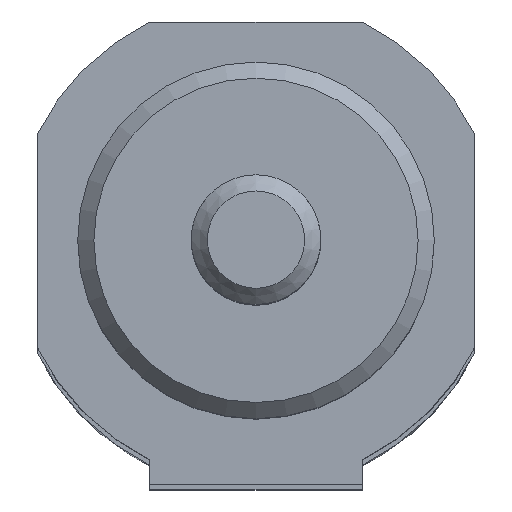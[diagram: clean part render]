
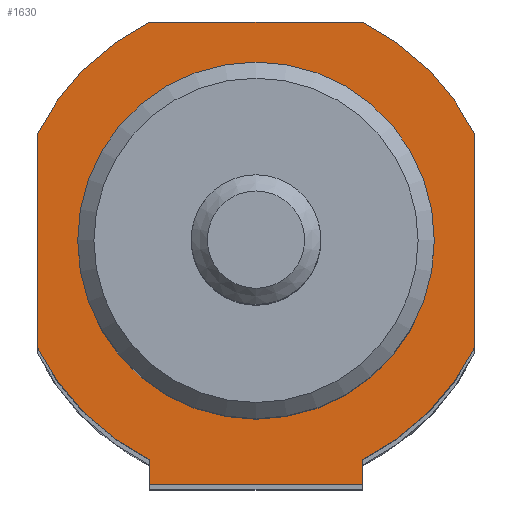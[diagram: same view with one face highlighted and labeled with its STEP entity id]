
A CAD part, top view. The second image highlights one B-rep face of the part: STEP entity #1630.
In plain terms, the highlighted planar face has unit normal (0, 0, 1).
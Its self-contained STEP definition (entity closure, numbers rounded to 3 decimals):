
#73=CARTESIAN_POINT('',(6.538,-15.,231.0));
#74=VERTEX_POINT('',#73);
#75=CARTESIAN_POINT('',(-6.538,-15.,231.0));
#76=VERTEX_POINT('',#75);
#77=CARTESIAN_POINT('',(6.538,-15.,231.0));
#78=DIRECTION('',(-1.0,0.0,0.0));
#79=VECTOR('',#78,13.077);
#80=LINE('',#77,#79);
#81=EDGE_CURVE('',#74,#76,#80,.T.);
#126=CARTESIAN_POINT('',(-6.538,-13.5,231.0));
#127=VERTEX_POINT('',#126);
#141=CARTESIAN_POINT('',(-6.538,-13.5,231.0));
#142=DIRECTION('',(0.0,-1.0,0.0));
#143=VECTOR('',#142,1.5);
#144=LINE('',#141,#143);
#145=EDGE_CURVE('',#127,#76,#144,.T.);
#157=CARTESIAN_POINT('',(6.538,-13.5,231.0));
#158=VERTEX_POINT('',#157);
#165=CARTESIAN_POINT('',(6.538,-13.5,231.0));
#166=DIRECTION('',(0.0,-1.0,0.0));
#167=VECTOR('',#166,1.5);
#168=LINE('',#165,#167);
#169=EDGE_CURVE('',#158,#74,#168,.T.);
#1358=CARTESIAN_POINT('',(11.0,0.,231.0));
#1359=VERTEX_POINT('',#1358);
#1360=CARTESIAN_POINT('',(0.,0.,231.0));
#1361=DIRECTION('',(0.0,0.0,-1.0));
#1362=DIRECTION('',(-1.0,0.0,0.0));
#1363=AXIS2_PLACEMENT_3D('',#1360,#1361,#1362);
#1364=CIRCLE('',#1363,11.0);
#1365=EDGE_CURVE('',#1359,#1359,#1364,.T.);
#1450=CARTESIAN_POINT('',(-6.538,13.5,231.0));
#1451=VERTEX_POINT('',#1450);
#1452=CARTESIAN_POINT('',(6.538,13.5,231.0));
#1453=VERTEX_POINT('',#1452);
#1454=CARTESIAN_POINT('',(-6.538,13.5,231.0));
#1455=DIRECTION('',(1.0,0.0,0.0));
#1456=VECTOR('',#1455,13.077);
#1457=LINE('',#1454,#1456);
#1458=EDGE_CURVE('',#1451,#1453,#1457,.T.);
#1481=CARTESIAN_POINT('',(13.5,6.538,231.0));
#1482=VERTEX_POINT('',#1481);
#1483=CARTESIAN_POINT('',(0.,0.,231.));
#1484=DIRECTION('',(0.,0.,-1.0));
#1485=DIRECTION('',(0.9,0.436,0.));
#1486=AXIS2_PLACEMENT_3D('',#1483,#1484,#1485);
#1487=CIRCLE('',#1486,15.);
#1488=EDGE_CURVE('',#1453,#1482,#1487,.T.);
#1506=CARTESIAN_POINT('',(13.5,-6.538,231.0));
#1507=VERTEX_POINT('',#1506);
#1508=CARTESIAN_POINT('',(13.5,6.538,231.0));
#1509=DIRECTION('',(0.0,-1.0,0.0));
#1510=VECTOR('',#1509,13.077);
#1511=LINE('',#1508,#1510);
#1512=EDGE_CURVE('',#1482,#1507,#1511,.T.);
#1530=CARTESIAN_POINT('',(0.,0.,231.));
#1531=DIRECTION('',(0.,0.,-1.0));
#1532=DIRECTION('',(0.436,-0.9,0.));
#1533=AXIS2_PLACEMENT_3D('',#1530,#1531,#1532);
#1534=CIRCLE('',#1533,15.);
#1535=EDGE_CURVE('',#1507,#158,#1534,.T.);
#1548=CARTESIAN_POINT('',(-13.5,-6.538,231.0));
#1549=VERTEX_POINT('',#1548);
#1550=CARTESIAN_POINT('',(0.,0.,231.));
#1551=DIRECTION('',(0.,0.,-1.0));
#1552=DIRECTION('',(-0.9,-0.436,0.));
#1553=AXIS2_PLACEMENT_3D('',#1550,#1551,#1552);
#1554=CIRCLE('',#1553,15.);
#1555=EDGE_CURVE('',#127,#1549,#1554,.T.);
#1573=CARTESIAN_POINT('',(-13.5,6.538,231.0));
#1574=VERTEX_POINT('',#1573);
#1575=CARTESIAN_POINT('',(-13.5,-6.538,231.0));
#1576=DIRECTION('',(0.0,1.0,0.0));
#1577=VECTOR('',#1576,13.077);
#1578=LINE('',#1575,#1577);
#1579=EDGE_CURVE('',#1549,#1574,#1578,.T.);
#1597=CARTESIAN_POINT('',(0.,0.,231.));
#1598=DIRECTION('',(0.,0.,-1.0));
#1599=DIRECTION('',(-0.436,0.9,0.));
#1600=AXIS2_PLACEMENT_3D('',#1597,#1598,#1599);
#1601=CIRCLE('',#1600,15.);
#1602=EDGE_CURVE('',#1574,#1451,#1601,.T.);
#1610=CARTESIAN_POINT('',(0.,0.0,231.0));
#1611=DIRECTION('',(0.0,0.0,1.0));
#1612=DIRECTION('',(1.0,0.0,0.0));
#1613=AXIS2_PLACEMENT_3D('',#1610,#1611,#1612);
#1614=PLANE('',#1613);
#1615=ORIENTED_EDGE('',*,*,#1458,.F.);
#1616=ORIENTED_EDGE('',*,*,#1602,.F.);
#1617=ORIENTED_EDGE('',*,*,#1579,.F.);
#1618=ORIENTED_EDGE('',*,*,#1555,.F.);
#1619=ORIENTED_EDGE('',*,*,#145,.T.);
#1620=ORIENTED_EDGE('',*,*,#81,.F.);
#1621=ORIENTED_EDGE('',*,*,#169,.F.);
#1622=ORIENTED_EDGE('',*,*,#1535,.F.);
#1623=ORIENTED_EDGE('',*,*,#1512,.F.);
#1624=ORIENTED_EDGE('',*,*,#1488,.F.);
#1625=EDGE_LOOP('',(#1615,#1616,#1617,#1618,#1619,#1620,#1621,#1622,#1623,#1624));
#1626=FACE_OUTER_BOUND('',#1625,.T.);
#1627=ORIENTED_EDGE('',*,*,#1365,.T.);
#1628=EDGE_LOOP('',(#1627));
#1629=FACE_BOUND('',#1628,.T.);
#1630=ADVANCED_FACE('',(#1626,#1629),#1614,.T.);
